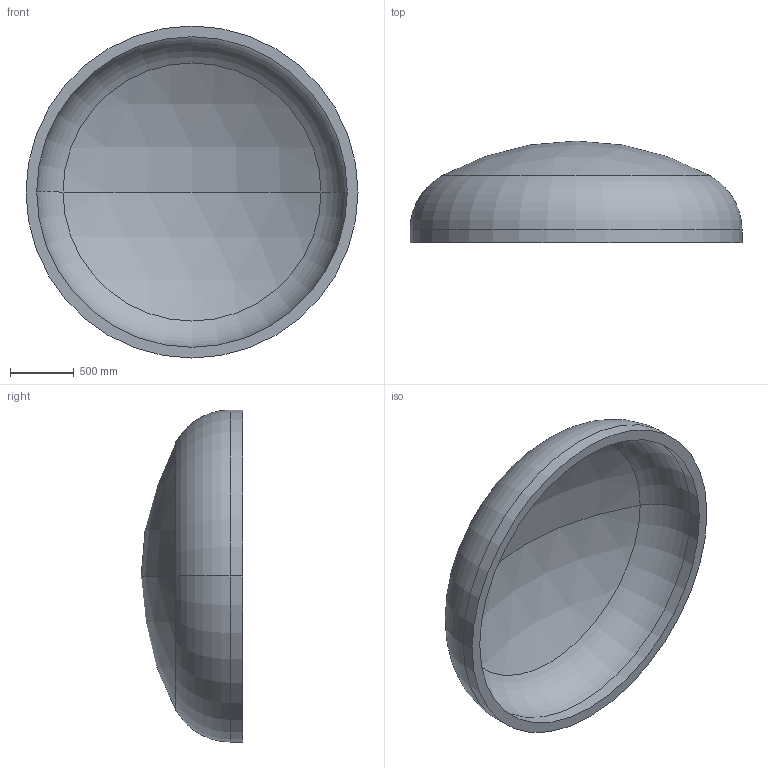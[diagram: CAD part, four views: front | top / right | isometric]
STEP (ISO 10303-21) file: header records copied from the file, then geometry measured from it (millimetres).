
FILE_DESCRIPTION (( 'STEP AP203' ), '1' );
FILE_NAME ('DIN 28013 Korbbogenform_-_Boden DIN 28013 - 2600 x 100 - I - s=84.step', '2016-07-01T16:26:42', ( '' ), ( '' ), 'SwSTEP 2.0', 'SolidWorks 2013', '' );
FILE_SCHEMA (( 'CONFIG_CONTROL_DESIGN' ));
Length unit declared in the file: millimetre
Products named in the file (1): DIN 28013 Korbbogenform_-_Boden DIN 28013 - 2600 x 100 - I - s=84
Bounding box: 2600 x 795.48 x 2600 mm (x, y, z)
Volume: 658472473.5 mm3; surface area: 16356645.9 mm2
Topology: 1 solids, 1 shells, 13 faces, 24 edges, 14 vertices
Faces by surface type: torus 4, cylinder 4, sphere 4, plane 1
Entity records: 407 total; most frequent: DIRECTION 72, CARTESIAN_POINT 52, ORIENTED_EDGE 48, AXIS2_PLACEMENT_3D 34, EDGE_CURVE 24, CIRCLE 20, EDGE_LOOP 14, VERTEX_POINT 14
